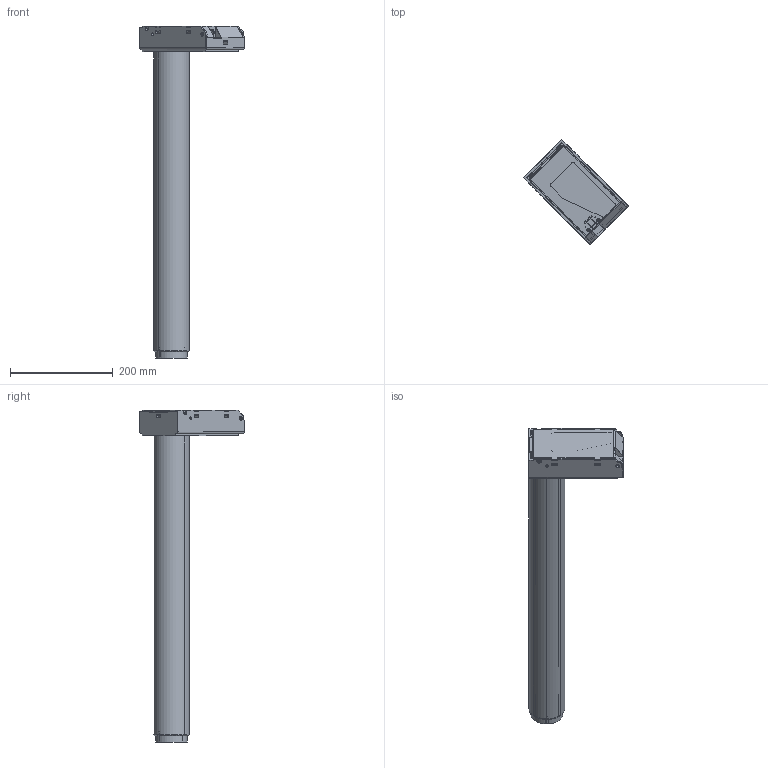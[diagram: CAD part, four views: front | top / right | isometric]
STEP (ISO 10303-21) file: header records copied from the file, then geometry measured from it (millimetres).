
FILE_DESCRIPTION (( 'STEP AP203' ), '1' );
FILE_NAME ('3D_TL29_Without wiper fixing holes.STEP', '2020-05-21T06:26:01', ( '' ), ( '' ), 'SwSTEP 2.0', 'SolidWorks 2015', '' );
FILE_SCHEMA (( 'CONFIG_CONTROL_DESIGN' ));
Length unit declared in the file: millimetre
Products named in the file (1): 3D_TL29_Without wiper fixing holes
Bounding box: 203.23 x 203.23 x 645 mm (x, y, z)
Volume: 694629.6 mm3; surface area: 613437.7 mm2
Topology: 7 solids, 7 shells, 1229 faces, 3218 edges, 1931 vertices
Faces by surface type: cylinder 617, plane 396, sphere 73, bspline 67, torus 54, cone 22
Entity records: 41516 total; most frequent: CARTESIAN_POINT 12096, ORIENTED_EDGE 6276, DIRECTION 6187, EDGE_CURVE 3138, AXIS2_PLACEMENT_3D 2254, VERTEX_POINT 1931, VECTOR 1679, LINE 1679
